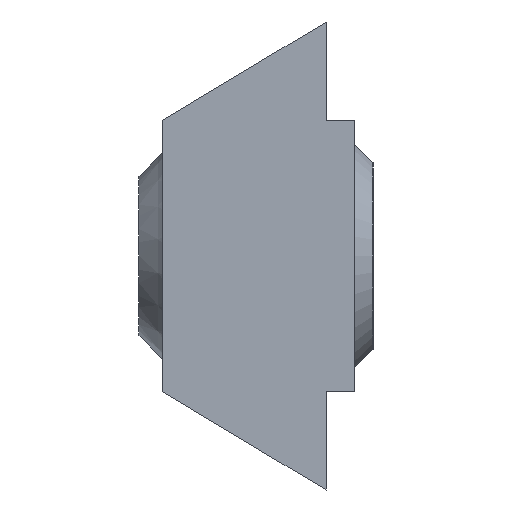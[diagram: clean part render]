
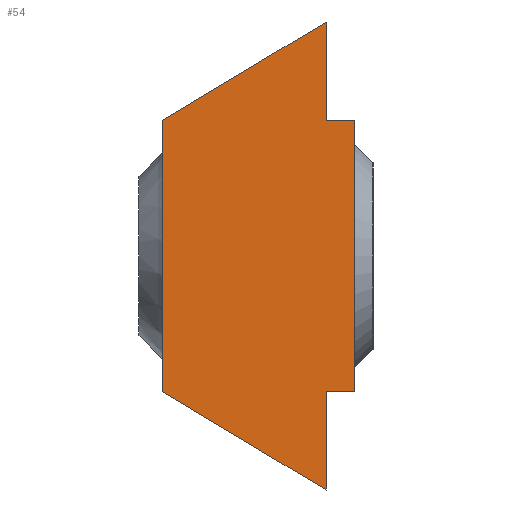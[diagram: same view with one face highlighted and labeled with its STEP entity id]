
A CAD part, left-side view. The second image highlights one B-rep face of the part: STEP entity #54.
In plain terms, the highlighted planar face has unit normal (-1, 0, 0).
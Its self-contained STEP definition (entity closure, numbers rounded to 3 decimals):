
#43 = CARTESIAN_POINT ( 'NONE',  ( 0., 1.4, -2.9 ) ) ;
#54 = ADVANCED_FACE ( 'NONE', ( #946 ), #1555, .F. ) ;
#59 = LINE ( 'NONE', #781, #368 ) ;
#79 = EDGE_LOOP ( 'NONE', ( #882, #1342, #528, #338, #749, #1245, #700, #428 ) ) ;
#88 = CARTESIAN_POINT ( 'NONE',  ( 0., 1.4, 2.9 ) ) ;
#187 = EDGE_CURVE ( 'NONE', #337, #523, #1292, .T. ) ;
#193 = CARTESIAN_POINT ( 'NONE',  ( 0., 2., -2.9 ) ) ;
#225 = LINE ( 'NONE', #1087, #435 ) ;
#276 = VERTEX_POINT ( 'NONE', #334 ) ;
#334 = CARTESIAN_POINT ( 'NONE',  ( 0., 5.5, 2.9 ) ) ;
#337 = VERTEX_POINT ( 'NONE', #917 ) ;
#338 = ORIENTED_EDGE ( 'NONE', *, *, #1698, .F. ) ;
#368 = VECTOR ( 'NONE', #1756, 1000. ) ;
#428 = ORIENTED_EDGE ( 'NONE', *, *, #915, .F. ) ;
#435 = VECTOR ( 'NONE', #1657, 1000. ) ;
#443 = CARTESIAN_POINT ( 'NONE',  ( 0., 2., 2.9 ) ) ;
#461 = VERTEX_POINT ( 'NONE', #1362 ) ;
#477 = CARTESIAN_POINT ( 'NONE',  ( 0., 2., -5. ) ) ;
#523 = VERTEX_POINT ( 'NONE', #1499 ) ;
#528 = ORIENTED_EDGE ( 'NONE', *, *, #1350, .F. ) ;
#529 = DIRECTION ( 'NONE',  ( 0., 0., -1. ) ) ;
#623 = VECTOR ( 'NONE', #529, 1000. ) ;
#678 = VERTEX_POINT ( 'NONE', #1265 ) ;
#691 = LINE ( 'NONE', #1011, #777 ) ;
#700 = ORIENTED_EDGE ( 'NONE', *, *, #1210, .F. ) ;
#749 = ORIENTED_EDGE ( 'NONE', *, *, #187, .F. ) ;
#777 = VECTOR ( 'NONE', #1161, 1000. ) ;
#781 = CARTESIAN_POINT ( 'NONE',  ( 0., 5.5, -2.9 ) ) ;
#811 = VERTEX_POINT ( 'NONE', #193 ) ;
#861 = CARTESIAN_POINT ( 'NONE',  ( 0., 0., 0. ) ) ;
#882 = ORIENTED_EDGE ( 'NONE', *, *, #1254, .F. ) ;
#912 = CARTESIAN_POINT ( 'NONE',  ( 0., 2., 2.9 ) ) ;
#915 = EDGE_CURVE ( 'NONE', #1337, #461, #1531, .T. ) ;
#917 = CARTESIAN_POINT ( 'NONE',  ( 0., 2., -5. ) ) ;
#946 = FACE_OUTER_BOUND ( 'NONE', #79, .T. ) ;
#977 = DIRECTION ( 'NONE',  ( 0., 1., 0. ) ) ;
#1007 = LINE ( 'NONE', #1788, #623 ) ;
#1011 = CARTESIAN_POINT ( 'NONE',  ( 0., 5.5, 2.9 ) ) ;
#1087 = CARTESIAN_POINT ( 'NONE',  ( 0., 2., -2.9 ) ) ;
#1109 = EDGE_CURVE ( 'NONE', #678, #1582, #1007, .T. ) ;
#1115 = DIRECTION ( 'NONE',  ( 0., -1., 0. ) ) ;
#1121 = DIRECTION ( 'NONE',  ( 0., 0., -1. ) ) ;
#1143 = DIRECTION ( 'NONE',  ( 0., 0.857, 0.514 ) ) ;
#1146 = CARTESIAN_POINT ( 'NONE',  ( 0., 1.4, 2.9 ) ) ;
#1156 = EDGE_CURVE ( 'NONE', #811, #337, #225, .T. ) ;
#1161 = DIRECTION ( 'NONE',  ( 0., -0.857, 0.514 ) ) ;
#1175 = DIRECTION ( 'NONE',  ( 0., 0., -1. ) ) ;
#1210 = EDGE_CURVE ( 'NONE', #461, #811, #1652, .T. ) ;
#1245 = ORIENTED_EDGE ( 'NONE', *, *, #1156, .F. ) ;
#1254 = EDGE_CURVE ( 'NONE', #1582, #1337, #1782, .T. ) ;
#1265 = CARTESIAN_POINT ( 'NONE',  ( 0., 2., 5. ) ) ;
#1284 = VECTOR ( 'NONE', #977, 1000. ) ;
#1292 = LINE ( 'NONE', #477, #1748 ) ;
#1337 = VERTEX_POINT ( 'NONE', #1146 ) ;
#1342 = ORIENTED_EDGE ( 'NONE', *, *, #1109, .F. ) ;
#1350 = EDGE_CURVE ( 'NONE', #276, #678, #691, .T. ) ;
#1362 = CARTESIAN_POINT ( 'NONE',  ( 0., 1.4, -2.9 ) ) ;
#1499 = CARTESIAN_POINT ( 'NONE',  ( 0., 5.5, -2.9 ) ) ;
#1531 = LINE ( 'NONE', #88, #1614 ) ;
#1555 = PLANE ( 'NONE',  #1725 ) ;
#1568 = DIRECTION ( 'NONE',  ( 1., 0., 0. ) ) ;
#1582 = VERTEX_POINT ( 'NONE', #912 ) ;
#1614 = VECTOR ( 'NONE', #1175, 1000. ) ;
#1652 = LINE ( 'NONE', #43, #1284 ) ;
#1657 = DIRECTION ( 'NONE',  ( 0., 0., -1. ) ) ;
#1698 = EDGE_CURVE ( 'NONE', #523, #276, #59, .T. ) ;
#1725 = AXIS2_PLACEMENT_3D ( 'NONE', #861, #1568, #1121 ) ;
#1748 = VECTOR ( 'NONE', #1143, 1000. ) ;
#1756 = DIRECTION ( 'NONE',  ( 0., 0., 1. ) ) ;
#1759 = VECTOR ( 'NONE', #1115, 1000. ) ;
#1782 = LINE ( 'NONE', #443, #1759 ) ;
#1788 = CARTESIAN_POINT ( 'NONE',  ( 0., 2., 5. ) ) ;
